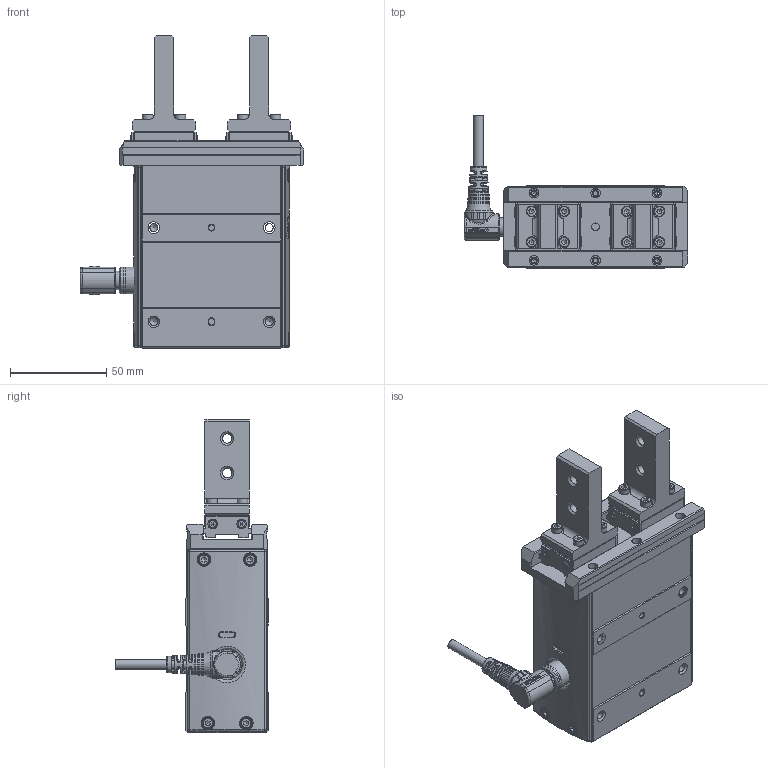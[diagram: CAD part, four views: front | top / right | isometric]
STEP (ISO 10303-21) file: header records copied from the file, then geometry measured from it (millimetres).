
FILE_DESCRIPTION(/* description */ (''),/* implementation_level */ '2;1');
FILE_NAME(/* name */ 'D:\2025.02.25 帶電匯整給泊舟\CHZ2-N22-WR.stp',/* time_stamp */ '2025-02-26T11:04:10+08:00',/* author */ ('T10033'),/* organization */ (''),/* preprocessor_version */ 'ST-DEVELOPER v18.1',/* originating_system */ 'Autodesk Inventor 2020',/* authorisation */ '');
FILE_SCHEMA (('CONFIG_CONTROL_DESIGN'));
Products named in the file (11): CHZ2-N22_(線直出+帶夾具); 12008-000057-02_蓋板修改; 慶陞金屬頭; 6WT3E5DF_Shrinkwrap_1; 63T6E3_Shrinkwrap_1; 43Y6E3TR_Shrinkwrap_1; 326TW3T6SER; 234T63GYETRRRR; 12021-000017_夾具; ANSI B18.3.1M - M3x0.5 x 12(1); M12-14PIN 線端90度接頭-05中繼線
Assembly tree (18 placements, depth 3):
  CHZ2-N22_(線直出+帶夾具)
    12008-000057-02_蓋板修改
    慶陞金屬頭
    6WT3E5DF_Shrinkwrap_1
    63T6E3_Shrinkwrap_1
    43Y6E3TR_Shrinkwrap_1
    326TW3T6SER
      12021-000017_夾具
      ANSI B18.3.1M - M3x0.5 x 12(1)  x4
    234T63GYETRRRR
      12021-000017_夾具
      ANSI B18.3.1M - M3x0.5 x 12(1)  x4
    M12-14PIN 線端90度接頭-05中繼線
Bounding box: 116.3 x 79.5 x 163 mm (x, y, z)
Volume: 389159.5 mm3; surface area: 93914.9 mm2
Topology: 54 solids, 59 shells, 2735 faces, 7410 edges, 4928 vertices
Faces by surface type: plane 1396, cylinder 612, cone 423, bspline 155, torus 129, sphere 20
Full cylindrical faces by diameter (mm): 0.6 x14, 0.65 x14, 1 x14, 2.013 x8, 2.224 x8, 2.459 x22, 2.5 x8, 2.7 x8, 2.8 x3, 3 x30, 3.2 x8, 3.4 x6, 4 x3, 4.134 x12, 4.917 x4, 5 x15, 5.5 x20, 6.647 x2, 8 x3, 8.9 x1, 9.5 x2, 9.6 x1, 10.5 x2, 10.9 x1, 11 x2, 11.2 x1, 11.25 x1, 12 x1, 13 x1, 13.8 x1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
Entity records: 112473 total; most frequent: CARTESIAN_POINT 43366, DIRECTION 13974, ORIENTED_EDGE 13902, EDGE_CURVE 6969, AXIS2_PLACEMENT_3D 5268, VERTEX_POINT 4642, LINE 3438, VECTOR 3438
